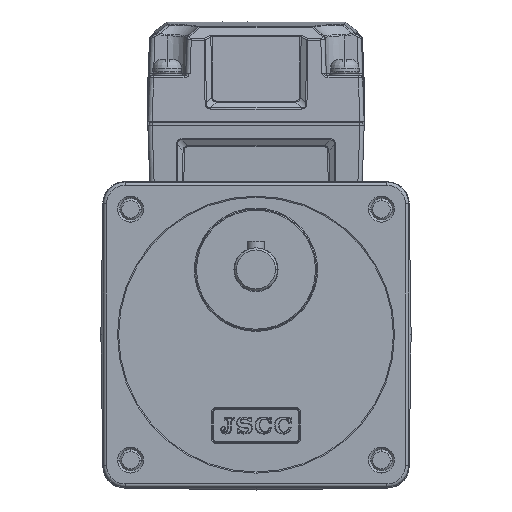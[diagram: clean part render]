
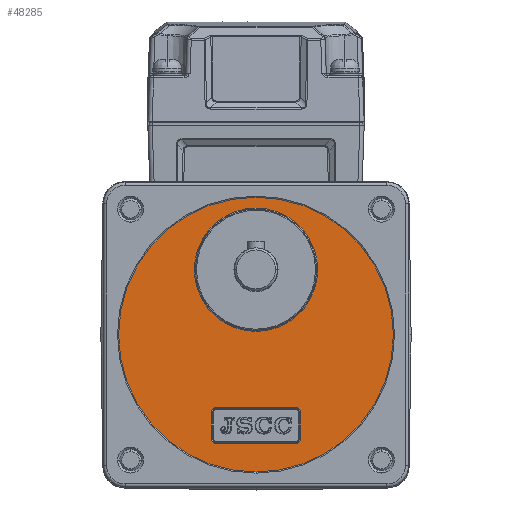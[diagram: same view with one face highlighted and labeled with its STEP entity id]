
A CAD part, top view. The second image highlights one B-rep face of the part: STEP entity #48285.
In plain terms, the highlighted planar face has unit normal (0, 0, 1) as drawn and (1, 0, 0) by its records, which use the part's own axes.
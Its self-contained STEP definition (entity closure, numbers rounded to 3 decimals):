
#48170=CARTESIAN_POINT('',(32.2,0.,0.));
#48171=DIRECTION('',(0.,0.,-1.));
#48172=DIRECTION('',(1.,-0.,0.));
#48173=AXIS2_PLACEMENT_3D('',#48170,#48172,#48171);
#48174=PLANE('',#48173);
#48175=CARTESIAN_POINT('',(32.2,0.,31.75));
#48176=VERTEX_POINT('',#48175);
#48177=CARTESIAN_POINT('',(32.2,0.,-31.75));
#48178=VERTEX_POINT('',#48177);
#48179=CARTESIAN_POINT('',(32.2,0.,0.));
#48180=DIRECTION('',(0.,0.,1.));
#48181=DIRECTION('',(1.,0.,0.));
#48182=AXIS2_PLACEMENT_3D('',#48179,#48181,#48180);
#48183=CIRCLE('',#48182,31.75);
#48184=EDGE_CURVE('',#48176,#48178,#48183,.T.);
#48185=ORIENTED_EDGE('E1',*,*,#48184,.T.);
#48186=CARTESIAN_POINT('',(32.2,0.,0.));
#48187=DIRECTION('',(0.,0.,-1.));
#48188=DIRECTION('',(1.,0.,0.));
#48189=AXIS2_PLACEMENT_3D('',#48186,#48188,#48187);
#48190=CIRCLE('',#48189,31.75);
#48191=EDGE_CURVE('',#48178,#48176,#48190,.T.);
#48192=ORIENTED_EDGE('E2',*,*,#48191,.T.);
#48193=EDGE_LOOP('',(#48185,#48192));
#48194=FACE_OUTER_BOUND('',#48193,.T.);
#48195=CARTESIAN_POINT('',(32.2,-15.,14.25));
#48196=VERTEX_POINT('',#48195);
#48197=CARTESIAN_POINT('',(32.2,-15.,-14.25));
#48198=VERTEX_POINT('',#48197);
#48199=CARTESIAN_POINT('',(32.2,-15.,0.));
#48200=DIRECTION('',(0.,0.,1.));
#48201=DIRECTION('',(-1.,0.,0.));
#48202=AXIS2_PLACEMENT_3D('',#48199,#48201,#48200);
#48203=CIRCLE('',#48202,14.25);
#48204=EDGE_CURVE('',#48196,#48198,#48203,.T.);
#48205=ORIENTED_EDGE('E3',*,*,#48204,.T.);
#48206=CARTESIAN_POINT('',(32.2,-15.,0.));
#48207=DIRECTION('',(0.,0.,-1.));
#48208=DIRECTION('',(-1.,0.,0.));
#48209=AXIS2_PLACEMENT_3D('',#48206,#48208,#48207);
#48210=CIRCLE('',#48209,14.25);
#48211=EDGE_CURVE('',#48198,#48196,#48210,.T.);
#48212=ORIENTED_EDGE('E4',*,*,#48211,.T.);
#48213=EDGE_LOOP('',(#48205,#48212));
#48214=FACE_BOUND('',#48213,.T.);
#48215=CARTESIAN_POINT('',(32.2,18.,10.25));
#48216=VERTEX_POINT('',#48215);
#48217=CARTESIAN_POINT('',(32.2,24.,10.25));
#48218=VERTEX_POINT('',#48217);
#48219=CARTESIAN_POINT('',(32.2,18.,10.25));
#48220=DIRECTION('',(0.,1.,0.));
#48221=VECTOR('',#48220,6.);
#48222=LINE('',#48219,#48221);
#48223=EDGE_CURVE('',#48216,#48218,#48222,.T.);
#48224=ORIENTED_EDGE('E5',*,*,#48223,.T.);
#48225=CARTESIAN_POINT('',(32.2,25.25,9.));
#48226=VERTEX_POINT('',#48225);
#48227=CARTESIAN_POINT('',(32.2,24.,9.));
#48228=DIRECTION('',(0.,0.,1.));
#48229=DIRECTION('',(-1.,0.,-0.));
#48230=AXIS2_PLACEMENT_3D('',#48227,#48229,#48228);
#48231=CIRCLE('',#48230,1.25);
#48232=EDGE_CURVE('',#48218,#48226,#48231,.T.);
#48233=ORIENTED_EDGE('E6',*,*,#48232,.T.);
#48234=CARTESIAN_POINT('',(32.2,25.25,-9.));
#48235=VERTEX_POINT('',#48234);
#48236=CARTESIAN_POINT('',(32.2,25.25,9.));
#48237=DIRECTION('',(0.,0.,-1.));
#48238=VECTOR('',#48237,18.);
#48239=LINE('',#48236,#48238);
#48240=EDGE_CURVE('',#48226,#48235,#48239,.T.);
#48241=ORIENTED_EDGE('E7',*,*,#48240,.T.);
#48242=CARTESIAN_POINT('',(32.2,24.,-10.25));
#48243=VERTEX_POINT('',#48242);
#48244=CARTESIAN_POINT('',(32.2,24.,-9.));
#48245=DIRECTION('',(0.,1.,0.));
#48246=DIRECTION('',(-1.,0.,0.));
#48247=AXIS2_PLACEMENT_3D('',#48244,#48246,#48245);
#48248=CIRCLE('',#48247,1.25);
#48249=EDGE_CURVE('',#48235,#48243,#48248,.T.);
#48250=ORIENTED_EDGE('E8',*,*,#48249,.T.);
#48251=CARTESIAN_POINT('',(32.2,18.,-10.25));
#48252=VERTEX_POINT('',#48251);
#48253=CARTESIAN_POINT('',(32.2,24.,-10.25));
#48254=DIRECTION('',(0.,-1.,0.));
#48255=VECTOR('',#48254,6.);
#48256=LINE('',#48253,#48255);
#48257=EDGE_CURVE('',#48243,#48252,#48256,.T.);
#48258=ORIENTED_EDGE('E9',*,*,#48257,.T.);
#48259=CARTESIAN_POINT('',(32.2,16.75,-9.));
#48260=VERTEX_POINT('',#48259);
#48261=CARTESIAN_POINT('',(32.2,18.,-9.));
#48262=DIRECTION('',(0.,0.,-1.));
#48263=DIRECTION('',(-1.,0.,0.));
#48264=AXIS2_PLACEMENT_3D('',#48261,#48263,#48262);
#48265=CIRCLE('',#48264,1.25);
#48266=EDGE_CURVE('',#48252,#48260,#48265,.T.);
#48267=ORIENTED_EDGE('E10',*,*,#48266,.T.);
#48268=CARTESIAN_POINT('',(32.2,16.75,9.));
#48269=VERTEX_POINT('',#48268);
#48270=CARTESIAN_POINT('',(32.2,16.75,-9.));
#48271=DIRECTION('',(0.,0.,1.));
#48272=VECTOR('',#48271,18.);
#48273=LINE('',#48270,#48272);
#48274=EDGE_CURVE('',#48260,#48269,#48273,.T.);
#48275=ORIENTED_EDGE('E11',*,*,#48274,.T.);
#48276=CARTESIAN_POINT('',(32.2,18.,9.));
#48277=DIRECTION('',(0.,-1.,0.));
#48278=DIRECTION('',(-1.,0.,0.));
#48279=AXIS2_PLACEMENT_3D('',#48276,#48278,#48277);
#48280=CIRCLE('',#48279,1.25);
#48281=EDGE_CURVE('',#48269,#48216,#48280,.T.);
#48282=ORIENTED_EDGE('E12',*,*,#48281,.T.);
#48283=EDGE_LOOP('',(#48224,#48233,#48241,#48250,#48258,#48267,#48275,#48282));
#48284=FACE_BOUND('',#48283,.T.);
#48285=ADVANCED_FACE('F1',(#48194,#48214,#48284),#48174,.T.);
